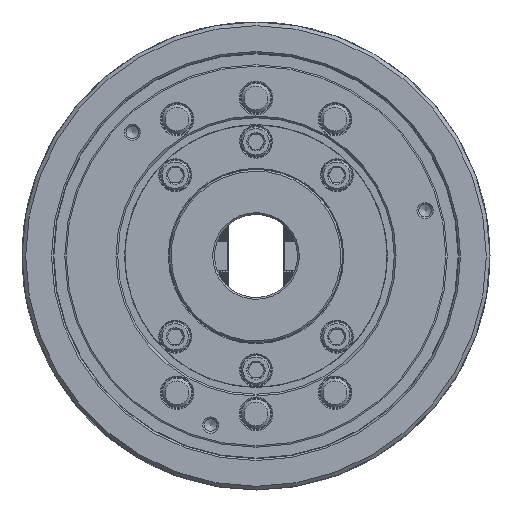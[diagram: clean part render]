
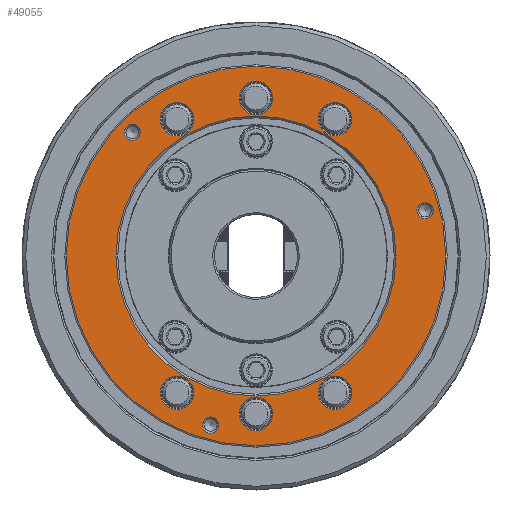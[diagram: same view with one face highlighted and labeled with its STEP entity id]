
A CAD part, left-side view. The second image highlights one B-rep face of the part: STEP entity #49055.
In plain terms, the highlighted planar face has unit normal (-1, 0, 0).
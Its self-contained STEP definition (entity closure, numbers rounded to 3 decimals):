
#655 = ORIENTED_EDGE ( 'NONE', *, *, #25667, .T. ) ;
#2467 = CIRCLE ( 'NONE', #77888, 4.4 ) ;
#3265 = DIRECTION ( 'NONE',  ( 1., 0., 0. ) ) ;
#3787 = AXIS2_PLACEMENT_3D ( 'NONE', #76573, #4858, #13135 ) ;
#4155 = FACE_BOUND ( 'NONE', #89284, .T. ) ;
#4652 = VERTEX_POINT ( 'NONE', #32963 ) ;
#4858 = DIRECTION ( 'NONE',  ( 1., 0., 0. ) ) ;
#6967 = DIRECTION ( 'NONE',  ( 0., 0., -1. ) ) ;
#11368 = ORIENTED_EDGE ( 'NONE', *, *, #26885, .T. ) ;
#12163 = CARTESIAN_POINT ( 'NONE',  ( -95., 67.175, 71.575 ) ) ;
#13135 = DIRECTION ( 'NONE',  ( 0., 0., -1. ) ) ;
#13858 = EDGE_CURVE ( 'NONE', #60720, #60720, #2467, .T. ) ;
#14563 = DIRECTION ( 'NONE',  ( -1., 0., 0. ) ) ;
#15145 = ORIENTED_EDGE ( 'NONE', *, *, #28369, .F. ) ;
#16699 = FACE_BOUND ( 'NONE', #22957, .T. ) ;
#17151 = FACE_BOUND ( 'NONE', #30296, .T. ) ;
#17609 = FACE_BOUND ( 'NONE', #54585, .T. ) ;
#18045 = CARTESIAN_POINT ( 'NONE',  ( -95., 42.862, -74.24 ) ) ;
#18784 = DIRECTION ( 'NONE',  ( 1., 0., 0. ) ) ;
#19195 = CARTESIAN_POINT ( 'NONE',  ( -95., 24.588, -87.363 ) ) ;
#19933 = CARTESIAN_POINT ( 'NONE',  ( -95., -42.862, 74.24 ) ) ;
#20773 = AXIS2_PLACEMENT_3D ( 'NONE', #19933, #67676, #26933 ) ;
#20858 = CARTESIAN_POINT ( 'NONE',  ( -95., -42.862, 65.14 ) ) ;
#21036 = EDGE_LOOP ( 'NONE', ( #57771 ) ) ;
#21766 = CARTESIAN_POINT ( 'NONE',  ( -95., -42.863, -83.34 ) ) ;
#22957 = EDGE_LOOP ( 'NONE', ( #78867 ) ) ;
#23175 = ORIENTED_EDGE ( 'NONE', *, *, #62533, .F. ) ;
#23597 = CIRCLE ( 'NONE', #85671, 76. ) ;
#23692 = DIRECTION ( 'NONE',  ( 0., 0., -1. ) ) ;
#24597 = CARTESIAN_POINT ( 'NONE',  ( -95., -103., 0. ) ) ;
#25667 = EDGE_CURVE ( 'NONE', #41978, #41978, #23597, .T. ) ;
#26885 = EDGE_CURVE ( 'NONE', #4652, #4652, #41161, .T. ) ;
#26933 = DIRECTION ( 'NONE',  ( 0., 0., -1. ) ) ;
#27021 = CARTESIAN_POINT ( 'NONE',  ( -95., 0., -94.825 ) ) ;
#27126 = DIRECTION ( 'NONE',  ( 0., 0., -1. ) ) ;
#27358 = CARTESIAN_POINT ( 'NONE',  ( -95., 42.862, -83.34 ) ) ;
#28234 = CIRCLE ( 'NONE', #40030, 9.1 ) ;
#28369 = EDGE_CURVE ( 'NONE', #86417, #86417, #73935, .T. ) ;
#29424 = CIRCLE ( 'NONE', #53077, 4.4 ) ;
#29984 = CARTESIAN_POINT ( 'NONE',  ( -95., 0., 0. ) ) ;
#30296 = EDGE_LOOP ( 'NONE', ( #72564 ) ) ;
#32004 = FACE_BOUND ( 'NONE', #21036, .T. ) ;
#32426 = DIRECTION ( 'NONE',  ( -1., 0., 0. ) ) ;
#32963 = CARTESIAN_POINT ( 'NONE',  ( -95., 42.863, 65.14 ) ) ;
#33762 = CARTESIAN_POINT ( 'NONE',  ( -95., -91.763, 24.588 ) ) ;
#34990 = DIRECTION ( 'NONE',  ( 0., 0., 1. ) ) ;
#35411 = AXIS2_PLACEMENT_3D ( 'NONE', #24597, #3265, #23692 ) ;
#37086 = DIRECTION ( 'NONE',  ( 1., 0., 0. ) ) ;
#37931 = ORIENTED_EDGE ( 'NONE', *, *, #13858, .F. ) ;
#40030 = AXIS2_PLACEMENT_3D ( 'NONE', #77363, #37086, #6967 ) ;
#40977 = EDGE_LOOP ( 'NONE', ( #23175 ) ) ;
#41161 = CIRCLE ( 'NONE', #67838, 9.1 ) ;
#41978 = VERTEX_POINT ( 'NONE', #70244 ) ;
#42115 = VERTEX_POINT ( 'NONE', #43499 ) ;
#42664 = EDGE_LOOP ( 'NONE', ( #655 ) ) ;
#43499 = CARTESIAN_POINT ( 'NONE',  ( -95., 0., 76.625 ) ) ;
#45619 = DIRECTION ( 'NONE',  ( -1., 0., 0. ) ) ;
#47601 = ORIENTED_EDGE ( 'NONE', *, *, #73627, .T. ) ;
#48532 = EDGE_CURVE ( 'NONE', #53431, #53431, #29424, .T. ) ;
#49055 = ADVANCED_FACE ( 'NONE', ( #17151, #80129, #4155, #32004, #66732, #60227, #16699, #81942, #17609, #59786, #74123 ), #65791, .F. ) ;
#49649 = CIRCLE ( 'NONE', #3787, 9.1 ) ;
#51073 = DIRECTION ( 'NONE',  ( 1., 0., 0. ) ) ;
#51244 = CARTESIAN_POINT ( 'NONE',  ( -95., 0., -103. ) ) ;
#51305 = EDGE_CURVE ( 'NONE', #62196, #62196, #28234, .T. ) ;
#51528 = CARTESIAN_POINT ( 'NONE',  ( -95., 42.863, 74.24 ) ) ;
#51722 = AXIS2_PLACEMENT_3D ( 'NONE', #70161, #14563, #34990 ) ;
#53077 = AXIS2_PLACEMENT_3D ( 'NONE', #88630, #45619, #53490 ) ;
#53078 = EDGE_LOOP ( 'NONE', ( #55454 ) ) ;
#53431 = VERTEX_POINT ( 'NONE', #12163 ) ;
#53490 = DIRECTION ( 'NONE',  ( 0., 0., 1. ) ) ;
#54128 = DIRECTION ( 'NONE',  ( 1., 0., 0. ) ) ;
#54569 = CARTESIAN_POINT ( 'NONE',  ( -95., 0., 0. ) ) ;
#54585 = EDGE_LOOP ( 'NONE', ( #47601 ) ) ;
#55454 = ORIENTED_EDGE ( 'NONE', *, *, #51305, .T. ) ;
#56028 = VERTEX_POINT ( 'NONE', #20858 ) ;
#57771 = ORIENTED_EDGE ( 'NONE', *, *, #80003, .T. ) ;
#58196 = EDGE_LOOP ( 'NONE', ( #15145 ) ) ;
#58205 = DIRECTION ( 'NONE',  ( 1., 0., 0. ) ) ;
#59786 = FACE_OUTER_BOUND ( 'NONE', #58196, .T. ) ;
#60227 = FACE_BOUND ( 'NONE', #40977, .T. ) ;
#60651 = DIRECTION ( 'NONE',  ( 0., 0., 1. ) ) ;
#60720 = VERTEX_POINT ( 'NONE', #80165 ) ;
#61540 = DIRECTION ( 'NONE',  ( 0., 0., -1. ) ) ;
#62196 = VERTEX_POINT ( 'NONE', #27021 ) ;
#62533 = EDGE_CURVE ( 'NONE', #82595, #82595, #69396, .T. ) ;
#64975 = CIRCLE ( 'NONE', #76776, 9.1 ) ;
#65791 = PLANE ( 'NONE',  #35411 ) ;
#66636 = EDGE_LOOP ( 'NONE', ( #37931 ) ) ;
#66732 = FACE_BOUND ( 'NONE', #86075, .T. ) ;
#67676 = DIRECTION ( 'NONE',  ( 1., 0., 0. ) ) ;
#67838 = AXIS2_PLACEMENT_3D ( 'NONE', #51528, #51073, #72369 ) ;
#69396 = CIRCLE ( 'NONE', #51722, 4.4 ) ;
#69619 = AXIS2_PLACEMENT_3D ( 'NONE', #18045, #54128, #61540 ) ;
#70161 = CARTESIAN_POINT ( 'NONE',  ( -95., 24.588, -91.763 ) ) ;
#70244 = CARTESIAN_POINT ( 'NONE',  ( -95., 0., -76. ) ) ;
#72369 = DIRECTION ( 'NONE',  ( 0., 0., -1. ) ) ;
#72564 = ORIENTED_EDGE ( 'NONE', *, *, #48532, .F. ) ;
#73627 = EDGE_CURVE ( 'NONE', #85173, #85173, #49649, .T. ) ;
#73935 = CIRCLE ( 'NONE', #87175, 103. ) ;
#74123 = FACE_BOUND ( 'NONE', #42664, .T. ) ;
#76573 = CARTESIAN_POINT ( 'NONE',  ( -95., -42.863, -74.24 ) ) ;
#76776 = AXIS2_PLACEMENT_3D ( 'NONE', #82197, #18784, #27126 ) ;
#77363 = CARTESIAN_POINT ( 'NONE',  ( -95., 0., -85.725 ) ) ;
#77888 = AXIS2_PLACEMENT_3D ( 'NONE', #33762, #32426, #60651 ) ;
#78284 = EDGE_CURVE ( 'NONE', #56028, #56028, #88780, .T. ) ;
#78709 = EDGE_CURVE ( 'NONE', #84247, #84247, #90263, .T. ) ;
#78867 = ORIENTED_EDGE ( 'NONE', *, *, #78709, .T. ) ;
#80003 = EDGE_CURVE ( 'NONE', #42115, #42115, #64975, .T. ) ;
#80129 = FACE_BOUND ( 'NONE', #66636, .T. ) ;
#80165 = CARTESIAN_POINT ( 'NONE',  ( -95., -91.763, 28.988 ) ) ;
#81942 = FACE_BOUND ( 'NONE', #53078, .T. ) ;
#82197 = CARTESIAN_POINT ( 'NONE',  ( -95., 0., 85.725 ) ) ;
#82595 = VERTEX_POINT ( 'NONE', #19195 ) ;
#83559 = ORIENTED_EDGE ( 'NONE', *, *, #78284, .T. ) ;
#83693 = DIRECTION ( 'NONE',  ( 0., 0., -1. ) ) ;
#84247 = VERTEX_POINT ( 'NONE', #27358 ) ;
#85173 = VERTEX_POINT ( 'NONE', #21766 ) ;
#85671 = AXIS2_PLACEMENT_3D ( 'NONE', #29984, #58205, #87315 ) ;
#86075 = EDGE_LOOP ( 'NONE', ( #11368 ) ) ;
#86417 = VERTEX_POINT ( 'NONE', #51244 ) ;
#87175 = AXIS2_PLACEMENT_3D ( 'NONE', #54569, #89725, #83693 ) ;
#87315 = DIRECTION ( 'NONE',  ( 0., 0., -1. ) ) ;
#88630 = CARTESIAN_POINT ( 'NONE',  ( -95., 67.175, 67.175 ) ) ;
#88780 = CIRCLE ( 'NONE', #20773, 9.1 ) ;
#89284 = EDGE_LOOP ( 'NONE', ( #83559 ) ) ;
#89725 = DIRECTION ( 'NONE',  ( 1., 0., 0. ) ) ;
#90263 = CIRCLE ( 'NONE', #69619, 9.1 ) ;
